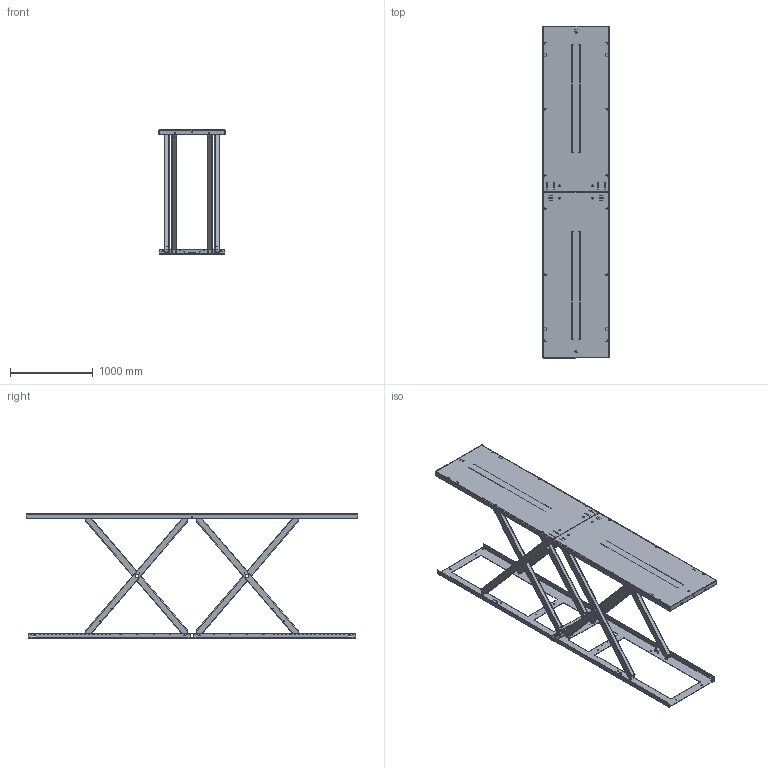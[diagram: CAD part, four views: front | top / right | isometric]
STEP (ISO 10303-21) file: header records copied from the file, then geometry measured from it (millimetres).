
FILE_DESCRIPTION(/* description */ ('TAH 2000'),/* implementation_level */ '2;1');
FILE_NAME(/* name */ 'C:\Autodesk_VaultWork\Ritningar\30000-39999\33000-33999\33885_Raised.stp',/* time_stamp */ '2020-02-25T16:29:50+01:00',/* author */ ('johso'),/* organization */ (''),/* preprocessor_version */ 'ST-DEVELOPER v16.5',/* originating_system */ 'Autodesk Inventor 2017',/* authorisation */ '');
FILE_SCHEMA (('AUTOMOTIVE_DESIGN { 1 0 10303 214 3 1 1 }'));
Length unit declared in the file: millimetre
Products named in the file (25): 33885.tmp; 33886; 33336; 613201; 44122; 44870; 612444; 612027; 612027_1; 33338; 33338-1; 33339; 33339-1; 614126; 614127; 45259; 614130; 614131; 614128; 614129; 80131; 41333-1300; 603235; 85955; 42394
Assembly tree (59 placements, depth 4):
  33885.tmp
    33886
      33336  x2
        613201
        45259
        44122
        44870
      612444
    612027
      33338
        33338-1  x2
      33339
        33339-1  x2
    612027_1
      33338
        33338-1  x2
      33339
        33339-1  x2
    614126
      614127
      614128
      614129
      45259  x2
      80131  x6
      85955  x3
      41333-1300
      42394  x2
    614130
      614131
      614128
      614129
      42394  x3
      80131  x6
      85955  x3
      41333-1300
      603235  x4
Bounding box: 800 x 4000 x 1500 mm (x, y, z)
Volume: 49936228.6 mm3; surface area: 20253076.5 mm2
Topology: 58 solids, 58 shells, 2587 faces, 7022 edges, 4585 vertices
Faces by surface type: plane 1380, cylinder 1095, cone 96, bspline 16
Full cylindrical faces by diameter (mm): 5.5 x3, 5.6 x8, 7 x8, 7.4 x16, 8 x12, 10.2 x8, 10.5 x18, 11.63 x12, 12.5 x8, 13 x16, 13.835 x6, 14.2 x32, 18.5 x6, 19 x6, 28.1 x6, 40.2 x8, 60 x8
Entity records: 37879 total; most frequent: CARTESIAN_POINT 7033, DIRECTION 6366, ORIENTED_EDGE 6134, EDGE_CURVE 3067, AXIS2_PLACEMENT_3D 2154, LINE 2058, VECTOR 2058, VERTEX_POINT 2055
